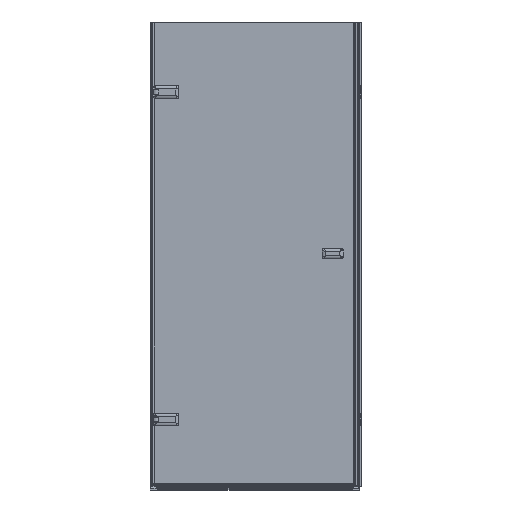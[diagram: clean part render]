
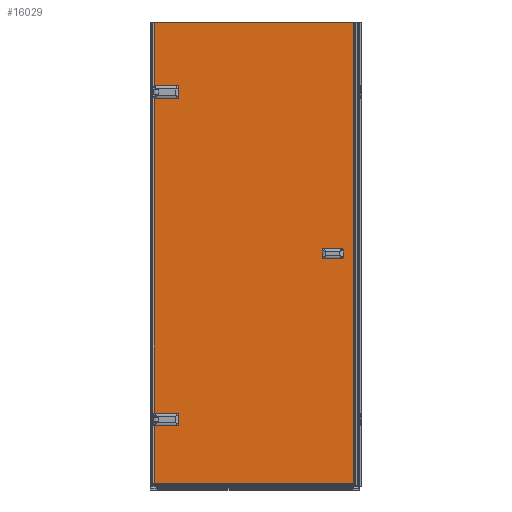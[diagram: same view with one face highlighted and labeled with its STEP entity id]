
A CAD part, front view. The second image highlights one B-rep face of the part: STEP entity #16029.
In plain terms, the highlighted planar face has unit normal (0, -1, 0).
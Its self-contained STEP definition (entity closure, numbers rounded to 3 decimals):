
#507=PLANE($,#17157);
#1184=FACE_OUTER_BOUND($,#2096,.T.);
#2096=EDGE_LOOP($,(#11706,#11707,#11708,#11709,#11710,#11711,#11712,#11713,
#11714,#11715,#11716,#11717,#11718,#11719,#11720,#11721,#11722,#11723,#11724,
#11725));
#2850=CIRCLE($,#16958,5.);
#2906=CIRCLE($,#17112,5.);
#2907=CIRCLE($,#17115,5.);
#2908=CIRCLE($,#17118,5.);
#2939=CIRCLE($,#17158,5.);
#2940=CIRCLE($,#17159,5.);
#2941=CIRCLE($,#17160,5.);
#2942=CIRCLE($,#17161,5.);
#3742=LINE($,#24989,#5344);
#3745=LINE($,#24997,#5347);
#3748=LINE($,#25004,#5350);
#3762=LINE($,#25072,#5364);
#3774=LINE($,#25318,#5376);
#3779=LINE($,#25330,#5381);
#3792=LINE($,#25387,#5394);
#3793=LINE($,#25389,#5395);
#3794=LINE($,#25390,#5396);
#3795=LINE($,#25394,#5397);
#3796=LINE($,#25398,#5398);
#3797=LINE($,#25402,#5399);
#5344=VECTOR($,#19536,96.);
#5347=VECTOR($,#19545,42.);
#5350=VECTOR($,#19554,96.);
#5364=VECTOR($,#19594,276.426);
#5376=VECTOR($,#19632,251.826);
#5381=VECTOR($,#19641,1352.852);
#5394=VECTOR($,#19674,856.286);
#5395=VECTOR($,#19675,1975.4);
#5396=VECTOR($,#19676,856.286);
#5397=VECTOR($,#19679,96.);
#5398=VECTOR($,#19682,42.);
#5399=VECTOR($,#19685,96.);
#6783=VERTEX_POINT($,#24185);
#6785=VERTEX_POINT($,#24195);
#6938=VERTEX_POINT($,#24975);
#6939=VERTEX_POINT($,#24984);
#6940=VERTEX_POINT($,#24988);
#6941=VERTEX_POINT($,#24992);
#6942=VERTEX_POINT($,#24996);
#6943=VERTEX_POINT($,#25000);
#6967=VERTEX_POINT($,#25062);
#6968=VERTEX_POINT($,#25071);
#7006=VERTEX_POINT($,#25307);
#7011=VERTEX_POINT($,#25329);
#7029=VERTEX_POINT($,#25386);
#7030=VERTEX_POINT($,#25388);
#7031=VERTEX_POINT($,#25391);
#7032=VERTEX_POINT($,#25393);
#7033=VERTEX_POINT($,#25395);
#7034=VERTEX_POINT($,#25397);
#7035=VERTEX_POINT($,#25399);
#7036=VERTEX_POINT($,#25401);
#8359=EDGE_CURVE($,#6785,#6783,#2850,.T.);
#8611=EDGE_CURVE($,#6938,#6939,#2906,.T.);
#8612=EDGE_CURVE($,#6939,#6940,#3742,.T.);
#8614=EDGE_CURVE($,#6940,#6941,#2907,.T.);
#8616=EDGE_CURVE($,#6941,#6942,#3745,.T.);
#8618=EDGE_CURVE($,#6942,#6943,#2908,.T.);
#8620=EDGE_CURVE($,#6943,#6785,#3748,.T.);
#8646=EDGE_CURVE($,#6968,#6967,#3762,.T.);
#8687=EDGE_CURVE($,#6783,#7006,#3774,.T.);
#8694=EDGE_CURVE($,#7011,#6938,#3779,.T.);
#8716=EDGE_CURVE($,#7006,#7029,#3792,.T.);
#8717=EDGE_CURVE($,#7029,#7030,#3793,.T.);
#8718=EDGE_CURVE($,#6968,#7030,#3794,.T.);
#8719=EDGE_CURVE($,#6967,#7031,#2939,.T.);
#8720=EDGE_CURVE($,#7031,#7032,#3795,.T.);
#8721=EDGE_CURVE($,#7032,#7033,#2940,.T.);
#8722=EDGE_CURVE($,#7033,#7034,#3796,.T.);
#8723=EDGE_CURVE($,#7034,#7035,#2941,.T.);
#8724=EDGE_CURVE($,#7035,#7036,#3797,.T.);
#8725=EDGE_CURVE($,#7036,#7011,#2942,.T.);
#11706=ORIENTED_EDGE($,*,*,#8611,.T.);
#11707=ORIENTED_EDGE($,*,*,#8612,.T.);
#11708=ORIENTED_EDGE($,*,*,#8614,.T.);
#11709=ORIENTED_EDGE($,*,*,#8616,.T.);
#11710=ORIENTED_EDGE($,*,*,#8618,.T.);
#11711=ORIENTED_EDGE($,*,*,#8620,.T.);
#11712=ORIENTED_EDGE($,*,*,#8359,.T.);
#11713=ORIENTED_EDGE($,*,*,#8687,.T.);
#11714=ORIENTED_EDGE($,*,*,#8716,.T.);
#11715=ORIENTED_EDGE($,*,*,#8717,.T.);
#11716=ORIENTED_EDGE($,*,*,#8718,.F.);
#11717=ORIENTED_EDGE($,*,*,#8646,.T.);
#11718=ORIENTED_EDGE($,*,*,#8719,.T.);
#11719=ORIENTED_EDGE($,*,*,#8720,.T.);
#11720=ORIENTED_EDGE($,*,*,#8721,.T.);
#11721=ORIENTED_EDGE($,*,*,#8722,.T.);
#11722=ORIENTED_EDGE($,*,*,#8723,.T.);
#11723=ORIENTED_EDGE($,*,*,#8724,.T.);
#11724=ORIENTED_EDGE($,*,*,#8725,.T.);
#11725=ORIENTED_EDGE($,*,*,#8694,.T.);
#16029=ADVANCED_FACE($,(#1184),#507,.T.);
#16958=AXIS2_PLACEMENT_3D($,#24196,#19054,#19055);
#17112=AXIS2_PLACEMENT_3D($,#24986,#19532,#19533);
#17115=AXIS2_PLACEMENT_3D($,#24993,#19540,#19541);
#17118=AXIS2_PLACEMENT_3D($,#25001,#19549,#19550);
#17157=AXIS2_PLACEMENT_3D($,#25385,#19672,#19673);
#17158=AXIS2_PLACEMENT_3D($,#25392,#19677,#19678);
#17159=AXIS2_PLACEMENT_3D($,#25396,#19680,#19681);
#17160=AXIS2_PLACEMENT_3D($,#25400,#19683,#19684);
#17161=AXIS2_PLACEMENT_3D($,#25403,#19686,#19687);
#19054=DIRECTION('center_axis',(0.,1.,0.));
#19055=DIRECTION('ref_axis',(1.,0.,0.));
#19532=DIRECTION('center_axis',(0.,1.,0.));
#19533=DIRECTION('ref_axis',(0.,0.,
-1.));
#19536=DIRECTION($,(1.,0.,0.));
#19540=DIRECTION('center_axis',(0.,1.,0.));
#19541=DIRECTION('ref_axis',(-1.,0.,0.));
#19545=DIRECTION($,(0.,0.,-1.));
#19549=DIRECTION('center_axis',(0.,1.,0.));
#19550=DIRECTION('ref_axis',(0.,0.,
1.));
#19554=DIRECTION($,(-1.,0.,0.));
#19594=DIRECTION($,(0.,0.,-1.));
#19632=DIRECTION($,(0.,0.,-1.));
#19641=DIRECTION($,(0.,0.,-1.));
#19672=DIRECTION('center_axis',(0.,-1.,0.));
#19673=DIRECTION('ref_axis',(1.,0.,0.));
#19674=DIRECTION($,(1.,0.,0.));
#19675=DIRECTION($,(0.,0.,1.));
#19676=DIRECTION($,(1.,0.,0.));
#19677=DIRECTION('center_axis',(0.,1.,0.));
#19678=DIRECTION('ref_axis',(0.,0.,
-1.));
#19679=DIRECTION($,(1.,0.,0.));
#19680=DIRECTION('center_axis',(0.,1.,0.));
#19681=DIRECTION('ref_axis',(-1.,0.,0.));
#19682=DIRECTION($,(0.,0.,-1.));
#19683=DIRECTION('center_axis',(0.,1.,0.));
#19684=DIRECTION('ref_axis',(0.,0.,
1.));
#19685=DIRECTION($,(-1.,0.,0.));
#19686=DIRECTION('center_axis',(0.,1.,0.));
#19687=DIRECTION('ref_axis',(1.,0.,0.));
#24185=CARTESIAN_POINT('',(381.732,45.856,-137.63));
#24195=CARTESIAN_POINT('',(386.019,45.856,-140.056));
#24196=CARTESIAN_POINT('Origin',(386.019,45.856,-135.056));
#24975=CARTESIAN_POINT('',(381.732,45.856,-90.481));
#24984=CARTESIAN_POINT('',(386.019,45.856,-88.056));
#24986=CARTESIAN_POINT('Origin',(386.019,45.856,-93.056));
#24988=CARTESIAN_POINT('',(482.019,45.856,-88.056));
#24989=CARTESIAN_POINT($,(431.019,45.856,-88.056));
#24992=CARTESIAN_POINT('',(487.019,45.856,-93.056));
#24993=CARTESIAN_POINT('Origin',(482.019,45.856,-93.056));
#24996=CARTESIAN_POINT('',(487.019,45.856,-135.056));
#24997=CARTESIAN_POINT($,(487.019,45.856,-264.556));
#25000=CARTESIAN_POINT('',(482.019,45.856,-140.056));
#25001=CARTESIAN_POINT('Origin',(482.019,45.856,-135.056));
#25004=CARTESIAN_POINT($,(383.019,45.856,-140.056));
#25062=CARTESIAN_POINT('',(381.732,45.856,1309.519));
#25071=CARTESIAN_POINT('',(381.732,45.856,1585.944));
#25072=CARTESIAN_POINT($,(381.732,45.856,1585.944));
#25307=CARTESIAN_POINT('',(381.732,45.856,-389.456));
#25318=CARTESIAN_POINT($,(381.732,45.856,1585.944));
#25329=CARTESIAN_POINT('',(381.732,45.856,1262.37));
#25330=CARTESIAN_POINT($,(381.732,45.856,1585.944));
#25385=CARTESIAN_POINT('Origin',(380.019,45.856,-394.056));
#25386=CARTESIAN_POINT('',(1238.019,45.856,-389.456));
#25387=CARTESIAN_POINT($,(380.019,45.856,-389.456));
#25388=CARTESIAN_POINT('',(1238.019,45.856,1585.944));
#25389=CARTESIAN_POINT($,(1238.019,45.856,-394.056));
#25390=CARTESIAN_POINT($,(380.019,45.856,1585.944));
#25391=CARTESIAN_POINT('',(386.019,45.856,1311.944));
#25392=CARTESIAN_POINT('Origin',(386.019,45.856,1306.944));
#25393=CARTESIAN_POINT('',(482.019,45.856,1311.944));
#25394=CARTESIAN_POINT($,(431.019,45.856,1311.944));
#25395=CARTESIAN_POINT('',(487.019,45.856,1306.944));
#25396=CARTESIAN_POINT('Origin',(482.019,45.856,1306.944));
#25397=CARTESIAN_POINT('',(487.019,45.856,1264.944));
#25398=CARTESIAN_POINT($,(487.019,45.856,435.444));
#25399=CARTESIAN_POINT('',(482.019,45.856,1259.944));
#25400=CARTESIAN_POINT('Origin',(482.019,45.856,1264.944));
#25401=CARTESIAN_POINT('',(386.019,45.856,1259.944));
#25402=CARTESIAN_POINT($,(383.019,45.856,1259.944));
#25403=CARTESIAN_POINT('Origin',(386.019,45.856,1264.944));
